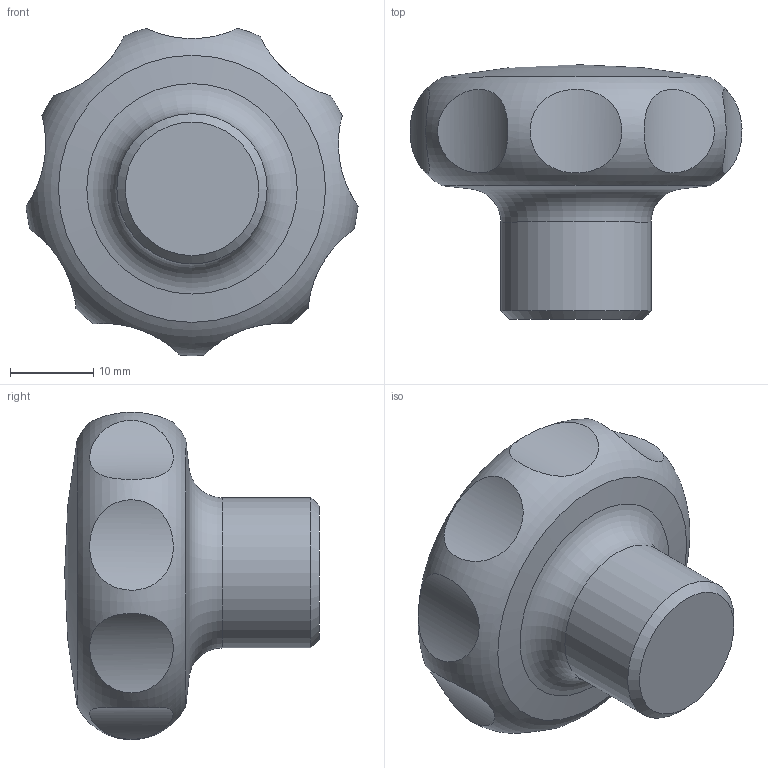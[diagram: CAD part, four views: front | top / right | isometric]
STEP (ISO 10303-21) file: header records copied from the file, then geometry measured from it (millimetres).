
FILE_DESCRIPTION( ( 'STEP AP203' ), '1' );
FILE_NAME( 'C:/Temp/Ganter_Step_05_03_2020/data/2_2/gn_5335/gn_5335_ni_a/Stainless steel-Star knob GN 5335-40-A.stp', '2020-03-05T12:10:27', ( 'License CC BY-ND 4.0' ), ( 'CADENAS' ), ' ', 'PARTsolutions', ' ' );
FILE_SCHEMA( ( 'CONFIG_CONTROL_DESIGN' ) );
Length unit declared in the file: millimetre
Products named in the file (1): _Stainless steel-Star knob GN 5335-40-A
Bounding box: 39.77 x 30.5 x 39.22 mm (x, y, z)
Volume: 18766.9 mm3; surface area: 4206.6 mm2
Topology: 1 solids, 1 shells, 16 faces, 23 edges, 17 vertices
Faces by surface type: cylinder 10, torus 2, sphere 2, plane 1, cone 1
Full cylindrical faces by diameter (mm): 18 x1
Entity records: 1105 total; most frequent: CARTESIAN_POINT 815, DIRECTION 46, EDGE_LOOP 30, ORIENTED_EDGE 30, AXIS2_PLACEMENT_3D 23, FACE_OUTER_BOUND 20, VERTEX_POINT 17, ADVANCED_FACE 16
